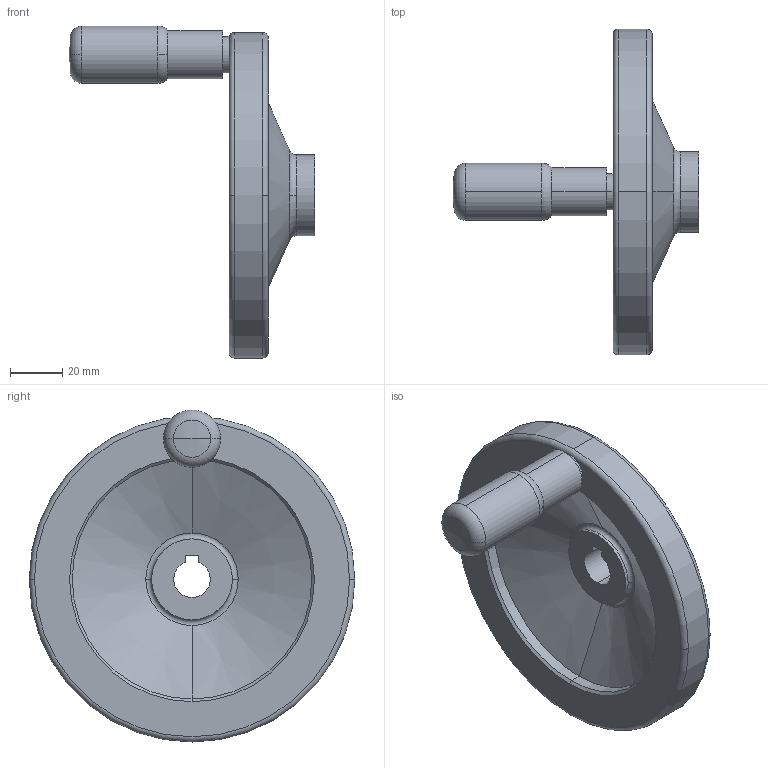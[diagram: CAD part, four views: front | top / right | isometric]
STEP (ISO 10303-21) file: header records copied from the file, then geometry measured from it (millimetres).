
FILE_DESCRIPTION (( 'STEP AP203' ), '1' );
FILE_NAME ('HR12514.STEP', '2024-01-16T10:52:19', ( '' ), ( '' ), 'SwSTEP 2.0', 'SolidWorks 2022', '' );
FILE_SCHEMA (( 'CONFIG_CONTROL_DESIGN' ));
Length unit declared in the file: millimetre
Products named in the file (1): HR12514
Bounding box: 94.44 x 125 x 127.5 mm (x, y, z)
Volume: 139807.1 mm3; surface area: 40403.5 mm2
Topology: 2 solids, 2 shells, 71 faces, 170 edges, 108 vertices
Faces by surface type: cylinder 24, plane 17, cone 14, torus 14, sphere 2
Entity records: 2184 total; most frequent: DIRECTION 419, CARTESIAN_POINT 350, ORIENTED_EDGE 340, AXIS2_PLACEMENT_3D 177, EDGE_CURVE 170, VERTEX_POINT 108, CIRCLE 105, EDGE_LOOP 80
